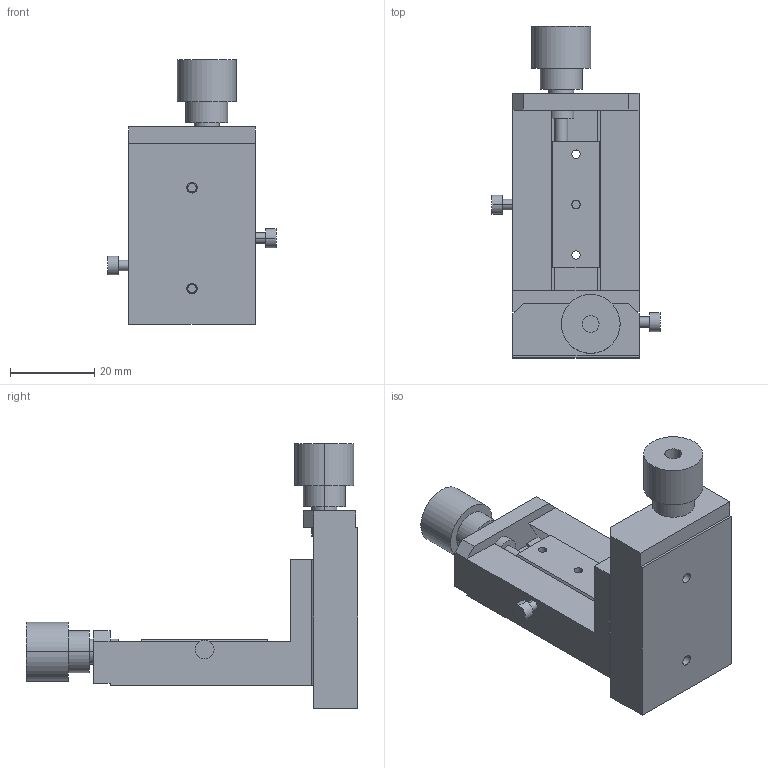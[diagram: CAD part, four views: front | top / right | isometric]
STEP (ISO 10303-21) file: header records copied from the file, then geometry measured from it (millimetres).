
FILE_DESCRIPTION (( 'STEP AP203' ), '1' );
FILE_NAME ('RM-X¥Z.STEP', '2008-08-05T07:28:11', ( '' ), ( '' ), 'SwSTEP 2.0', 'SolidWorks 2007', '' );
FILE_SCHEMA (( 'CONFIG_CONTROL_DESIGN' ));
Length unit declared in the file: millimetre
Products named in the file (4): RM-X刊; RM-X・Z-2; RM-X・Z-3; RM-X・Z-1
Assembly tree (3 placements, depth 2):
  RM-X刊
    RM-X・Z-1
    RM-X・Z-2
    RM-X・Z-3
Bounding box: 40 x 79 x 63 mm (x, y, z)
Volume: 35550.7 mm3; surface area: 18789.9 mm2
Topology: 3 solids, 9 shells, 203 faces, 458 edges, 304 vertices
Faces by surface type: cylinder 108, plane 95
Entity records: 6226 total; most frequent: DIRECTION 1092, CARTESIAN_POINT 971, ORIENTED_EDGE 916, EDGE_CURVE 458, AXIS2_PLACEMENT_3D 425, VERTEX_POINT 304, EDGE_LOOP 268, VECTOR 242
